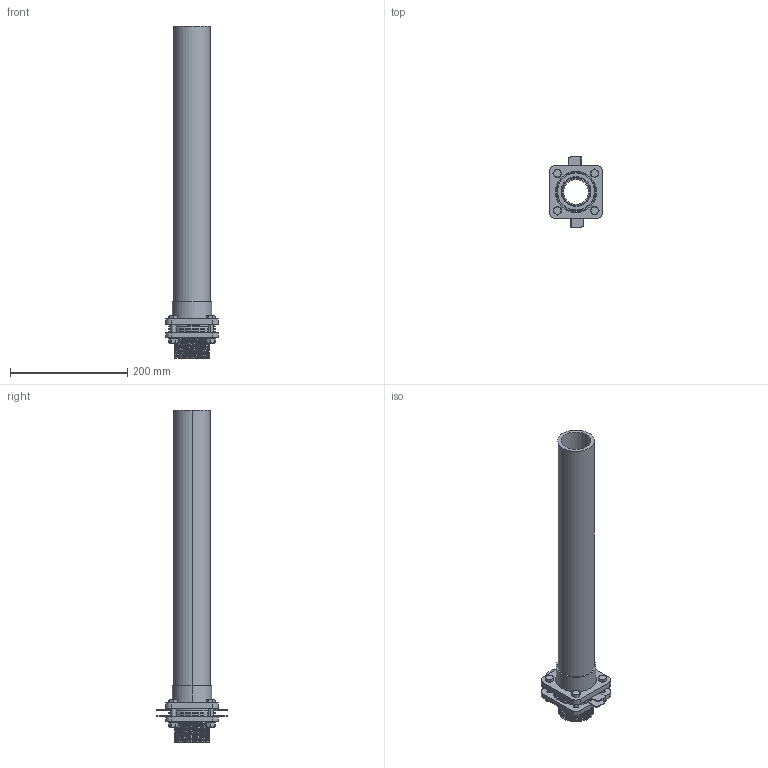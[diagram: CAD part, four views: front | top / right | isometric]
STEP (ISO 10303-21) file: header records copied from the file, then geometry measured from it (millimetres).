
FILE_DESCRIPTION (( 'STEP AP203' ), '1' );
FILE_NAME ('KP_C16-63M-L.step', '2011-08-08T12:00:53', ( '' ), ( '' ), 'SwSTEP 2.0', 'SolidWorks 2011', '' );
FILE_SCHEMA (( 'CONFIG_CONTROL_DESIGN' ));
Length unit declared in the file: millimetre
Products named in the file (1): KP_C16-63M-L
Bounding box: 90 x 120.6 x 566 mm (x, y, z)
Volume: 767365.8 mm3; surface area: 273552.3 mm2
Topology: 1 solids, 1 shells, 385 faces, 899 edges, 561 vertices
Faces by surface type: cone 133, plane 125, cylinder 106, torus 16, bspline 5
Entity records: 26032 total; most frequent: CARTESIAN_POINT 17303, ORIENTED_EDGE 1798, DIRECTION 1788, EDGE_CURVE 899, AXIS2_PLACEMENT_3D 735, VERTEX_POINT 561, EDGE_LOOP 440, FACE_OUTER_BOUND 385
